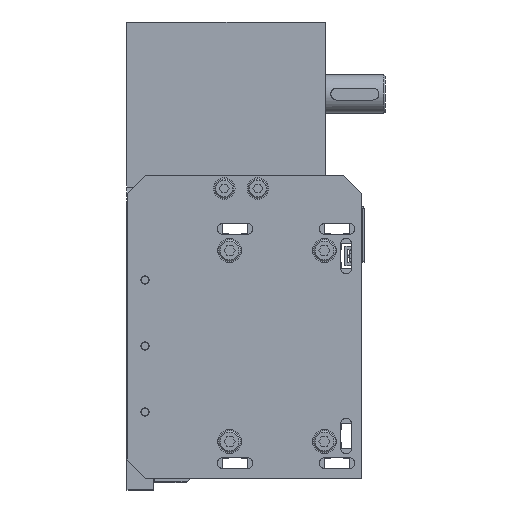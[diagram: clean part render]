
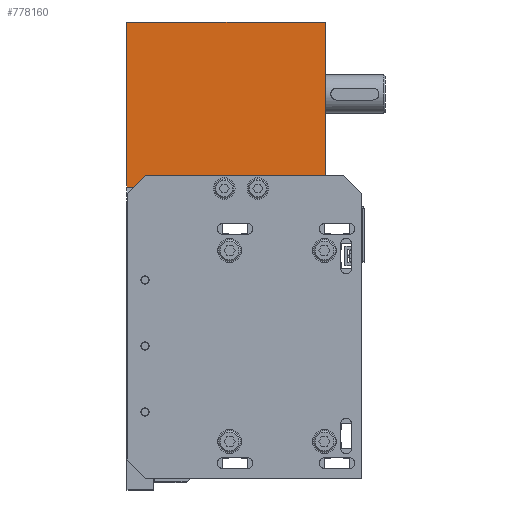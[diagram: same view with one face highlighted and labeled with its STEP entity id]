
A CAD part, front view. The second image highlights one B-rep face of the part: STEP entity #778160.
In plain terms, the highlighted planar face has unit normal (0, -1, 0).
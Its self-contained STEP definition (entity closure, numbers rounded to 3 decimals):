
#680940=CARTESIAN_POINT('',(-76.5,-450.,-5.));
#680950=VERTEX_POINT('',#680940);
#681610=CARTESIAN_POINT('',(-76.5,-450.,132.5));
#681620=VERTEX_POINT('',#681610);
#681650=CARTESIAN_POINT('',(-76.5,-450.,0.));
#681660=DIRECTION('',(0.,0.,1.));
#681670=VECTOR('',#681660,1.);
#681680=LINE('',#681650,#681670);
#681690=EDGE_CURVE('',#680950,#681620,#681680,.T.);
#777380=CARTESIAN_POINT('',(-49.,-450.,-17.5));
#777390=DIRECTION('',(0.,1.,0.));
#777400=DIRECTION('',(0.,0.,1.));
#777410=AXIS2_PLACEMENT_3D('',#777380,#777390,#777400);
#777420=PLANE('',#777410);
#777430=ORIENTED_EDGE('',*,*,#681690,.F.);
#777440=CARTESIAN_POINT('',(-43.8,-450.,132.5));
#777450=DIRECTION('',(-1.,0.,0.));
#777460=VECTOR('',#777450,1.);
#777470=LINE('',#777440,#777460);
#777480=CARTESIAN_POINT('',(88.5,-450.,132.5));
#777490=VERTEX_POINT('',#777480);
#777500=EDGE_CURVE('',#777490,#681620,#777470,.T.);
#777510=ORIENTED_EDGE('',*,*,#777500,.T.);
#777520=CARTESIAN_POINT('',(88.5,-450.,-17.5));
#777530=DIRECTION('',(0.,0.,1.));
#777540=VECTOR('',#777530,1.);
#777550=LINE('',#777520,#777540);
#777560=CARTESIAN_POINT('',(88.5,-450.,-17.5));
#777570=VERTEX_POINT('',#777560);
#777580=EDGE_CURVE('',#777570,#777490,#777550,.T.);
#777590=ORIENTED_EDGE('',*,*,#777580,.T.);
#777600=CARTESIAN_POINT('',(-43.8,-450.,-17.5));
#777610=DIRECTION('',(-1.,0.,0.));
#777620=VECTOR('',#777610,1.);
#777630=LINE('',#777600,#777620);
#777640=CARTESIAN_POINT('',(60.5,-450.,-17.5));
#777650=VERTEX_POINT('',#777640);
#777660=EDGE_CURVE('',#777570,#777650,#777630,.T.);
#777670=ORIENTED_EDGE('',*,*,#777660,.F.);
#777680=CARTESIAN_POINT('',(60.5,-450.,-17.5));
#777690=DIRECTION('',(0.,0.,1.));
#777700=VECTOR('',#777690,1.);
#777710=LINE('',#777680,#777700);
#777720=CARTESIAN_POINT('',(60.5,-450.,-10.5));
#777730=VERTEX_POINT('',#777720);
#777740=EDGE_CURVE('',#777650,#777730,#777710,.T.);
#777750=ORIENTED_EDGE('',*,*,#777740,.F.);
#777760=CARTESIAN_POINT('',(80.8,-450.,-10.5));
#777770=DIRECTION('',(1.,0.,0.));
#777780=VECTOR('',#777770,1.);
#777790=LINE('',#777760,#777780);
#777800=CARTESIAN_POINT('',(-23.5,-450.,-10.5));
#777810=VERTEX_POINT('',#777800);
#777820=EDGE_CURVE('',#777810,#777730,#777790,.T.);
#777830=ORIENTED_EDGE('',*,*,#777820,.T.);
#777840=CARTESIAN_POINT('',(-23.5,-450.,-17.5));
#777850=DIRECTION('',(0.,0.,1.));
#777860=VECTOR('',#777850,1.);
#777870=LINE('',#777840,#777860);
#777880=CARTESIAN_POINT('',(-23.5,-450.,-17.5));
#777890=VERTEX_POINT('',#777880);
#777900=EDGE_CURVE('',#777890,#777810,#777870,.T.);
#777910=ORIENTED_EDGE('',*,*,#777900,.T.);
#777920=CARTESIAN_POINT('',(80.8,-450.,-17.5));
#777930=DIRECTION('',(-1.,0.,0.));
#777940=VECTOR('',#777930,1.);
#777950=LINE('',#777920,#777940);
#777960=CARTESIAN_POINT('',(-51.5,-450.,-17.5));
#777970=VERTEX_POINT('',#777960);
#777980=EDGE_CURVE('',#777890,#777970,#777950,.T.);
#777990=ORIENTED_EDGE('',*,*,#777980,.F.);
#778000=CARTESIAN_POINT('',(-51.5,-450.,0.));
#778010=DIRECTION('',(0.,0.,-1.));
#778020=VECTOR('',#778010,1.);
#778030=LINE('',#778000,#778020);
#778040=CARTESIAN_POINT('',(-51.5,-450.,-5.));
#778050=VERTEX_POINT('',#778040);
#778060=EDGE_CURVE('',#778050,#777970,#778030,.T.);
#778070=ORIENTED_EDGE('',*,*,#778060,.T.);
#778080=CARTESIAN_POINT('',(0.,-450.,-5.));
#778090=DIRECTION('',(-1.,0.,0.));
#778100=VECTOR('',#778090,1.);
#778110=LINE('',#778080,#778100);
#778120=EDGE_CURVE('',#778050,#680950,#778110,.T.);
#778130=ORIENTED_EDGE('',*,*,#778120,.F.);
#778140=EDGE_LOOP('',(#778130,#778070,#777990,#777910,#777830,#777750,
#777670,#777590,#777510,#777430));
#778150=FACE_OUTER_BOUND('',#778140,.T.);
#778160=ADVANCED_FACE('',(#778150),#777420,.F.);
